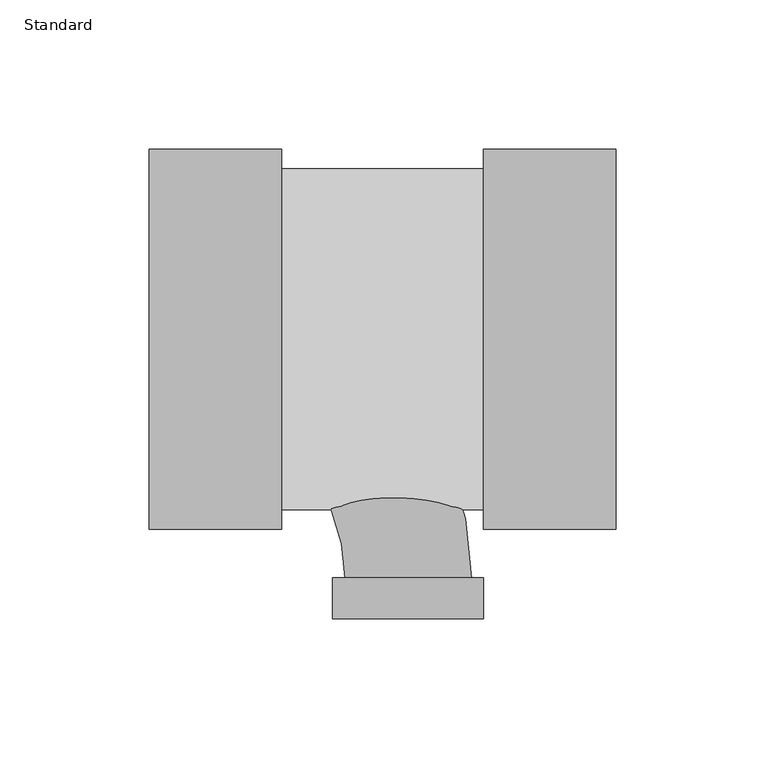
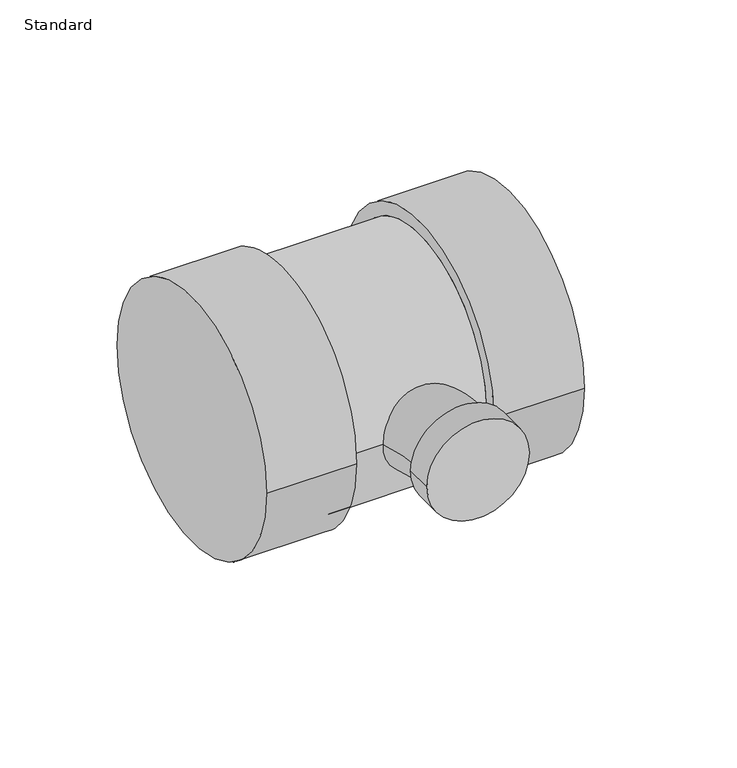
"""IFC4 building model written with IfcOpenShell, lengths in millimetres: pipe fitting geometry, EG-RCAN Té sanitaire de réduction - PVC - Nom. 40 - DWV : Standard."""

import ifcopenshell
import ifcopenshell.guid

model = None  # the IFC model being written
_history = None  # IfcOwnerHistory: only IFC2X3 demands one
_inside = {}  # id of a spatial element -> (the spatial element, [elements in it])
_under = {}  # id of a project, library or spatial element -> (it, [spatial elements below it])
_declared = {}  # id of a project -> (the project, [libraries it declares])
_typed = {}  # id of a type object -> (the type object, [elements of that type])
_made_of = {}  # id of a material, layer set ... -> (it, [elements and type objects made of it])


def new_model(schema):
    """Start an empty IFC model of exactly this schema.

    Asked for "IFC4X3", IfcOpenShell would pick the latest addendum, in which some entities
    have other attributes; the version numbers below select the first issue.
    IFC2X3 requires an IfcOwnerHistory on every rooted entity: one is made here for all.
    """
    global model, _history
    if schema == "IFC4X3":
        model = ifcopenshell.file(schema_version=(4, 3, 0, 0))
    else:
        model = ifcopenshell.file(schema=schema)
    _inside.clear()
    _under.clear()
    _declared.clear()
    _typed.clear()
    _made_of.clear()
    _history = None
    if model.schema == "IFC2X3":
        org = make("IfcOrganization", Name="unknown")
        user = make(
            "IfcPersonAndOrganization",
            ThePerson=make("IfcPerson", FamilyName="unknown"),
            TheOrganization=org,
        )
        app = make(
            "IfcApplication",
            ApplicationDeveloper=org,
            Version="unknown",
            ApplicationFullName="unknown",
            ApplicationIdentifier="unknown",
        )
        _history = make(
            "IfcOwnerHistory",
            OwningUser=user,
            OwningApplication=app,
            ChangeAction="ADDED",
            CreationDate=0,
        )
    return model


def make(cls, **values):
    """One entity of the class cls with the attributes given. An attribute that is None is left unset."""
    return model.create_entity(
        cls, **{name: value for name, value in values.items() if value is not None}
    )


def rooted(cls, **values):
    """An entity with a GlobalId (a new one), such as an element, a storey or a relation."""
    return make(cls, GlobalId=ifcopenshell.guid.new(), OwnerHistory=_history, **values)


def si_unit(unit_type, name, prefix=None):
    """IfcSIUnit, for example si_unit("LENGTHUNIT", "METRE", prefix="MILLI")."""
    return make("IfcSIUnit", UnitType=unit_type, Prefix=prefix, Name=name)


def assignment(units):
    """IfcUnitAssignment: the units of a project."""
    return None if units is None else make("IfcUnitAssignment", Units=units)


def point(xyz):
    """IfcCartesianPoint."""
    return None if xyz is None else make("IfcCartesianPoint", Coordinates=xyz)


def direction(xyz):
    """IfcDirection."""
    return None if xyz is None else make("IfcDirection", DirectionRatios=xyz)


def frame(location, z_axis=None, x_axis=None):
    """IfcAxis2Placement3D, a coordinate frame: its origin and axes. An axis left out is left unset."""
    return make(
        "IfcAxis2Placement3D",
        Location=point(location),
        Axis=direction(z_axis),
        RefDirection=direction(x_axis),
    )


def origin():
    """The frame at (0, 0, 0) with its axes left unset."""
    return frame((0.0, 0.0, 0.0))


def place(relative_to, where):
    """IfcLocalPlacement: puts the frame where relative to a parent placement (None: the world)."""
    return make(
        "IfcLocalPlacement", PlacementRelTo=relative_to, RelativePlacement=where
    )


def context(
    kind, dimensions, precision=None, world=None, true_north=None, identifier=None
):
    """IfcGeometricRepresentationContext, for example the 3D "Model" context."""
    return make(
        "IfcGeometricRepresentationContext",
        ContextIdentifier=identifier,
        ContextType=kind,
        CoordinateSpaceDimension=dimensions,
        Precision=precision,
        WorldCoordinateSystem=world,
        TrueNorth=true_north,
    )


def project(units=None, contexts=None):
    """IfcProject with its units and contexts."""
    return rooted(
        "IfcProject",
        Name="project",
        RepresentationContexts=contexts,
        UnitsInContext=assignment(units),
    )


def spatial(cls, under=None, at=None, **own):
    """A site, building, storey or space (cls), placed at a placement, below another one or the project."""
    s = rooted(cls, ObjectPlacement=at, **own)
    if under is not None:
        _under.setdefault(under.id(), (under, []))[1].append(s)
    return s


def circle_curve(where, radius):
    """IfcCircle in the frame where."""
    return make("IfcCircle", Position=where, Radius=radius)


def ellipse_curve(where, semi_axis1, semi_axis2):
    """IfcEllipse in the frame where."""
    return make(
        "IfcEllipse", Position=where, SemiAxis1=semi_axis1, SemiAxis2=semi_axis2
    )


def trimmed(basis, trim1, trim2, sense, master):
    """IfcTrimmedCurve: the piece of a basis curve between two trims."""
    return make(
        "IfcTrimmedCurve",
        BasisCurve=basis,
        Trim1=trim1,
        Trim2=trim2,
        SenseAgreement=sense,
        MasterRepresentation=master,
    )


def shape(context_of_items, identifier, shape_type, items):
    """IfcShapeRepresentation: the items that make up one representation, for example the "Body"."""
    return make(
        "IfcShapeRepresentation",
        ContextOfItems=context_of_items,
        RepresentationIdentifier=identifier,
        RepresentationType=shape_type,
        Items=items,
    )


def source(mapping_origin, context_of_items, identifier, shape_type, items):
    """IfcRepresentationMap: a shape defined once, which mapped items show again and again."""
    return make(
        "IfcRepresentationMap",
        MappingOrigin=mapping_origin,
        MappedRepresentation=shape(context_of_items, identifier, shape_type, items),
    )


def transform(
    local_origin,
    x_axis=None,
    y_axis=None,
    z_axis=None,
    scale=None,
    scale2=None,
    scale3=None,
    uniform=True,
):
    """IfcCartesianTransformationOperator3D, or its non-uniform kind. x_axis, y_axis, z_axis: its Axis1, 2, 3."""
    if uniform:
        return make(
            "IfcCartesianTransformationOperator3D",
            Axis1=direction(x_axis),
            Axis2=direction(y_axis),
            LocalOrigin=point(local_origin),
            Scale=scale,
            Axis3=direction(z_axis),
        )
    return make(
        "IfcCartesianTransformationOperator3DnonUniform",
        Axis1=direction(x_axis),
        Axis2=direction(y_axis),
        LocalOrigin=point(local_origin),
        Scale=scale,
        Axis3=direction(z_axis),
        Scale2=scale2,
        Scale3=scale3,
    )


def mapped(mapping_source, mapping_target):
    """IfcMappedItem: shows the shape of a source again, moved by a transform."""
    return make(
        "IfcMappedItem", MappingSource=mapping_source, MappingTarget=mapping_target
    )


def made_of(thing, what):
    """Note that an element or type object is made of a material, layer set ...; save() writes the relation."""
    if what is not None:
        _made_of.setdefault(what.id(), (what, []))[1].append(thing)
    return thing


def element(
    cls,
    number,
    at=None,
    inside=None,
    cuts=None,
    type_object=None,
    material=None,
    context=None,
    identifier="Body",
    shape_type=None,
    held_by="IfcProductDefinitionShape",
    body=None,
    shapes=None,
    **own,
):
    """One element of the class cls, such as IfcWall. Its Tag is "e" and its number.

    at: its placement. inside: the storey or other place that contains it. cuts: it is an
    opening in that element (IfcRelVoidsElement). A single representation is given by context,
    identifier, shape_type and body (its items); several are given by shapes. held_by: the class
    of the entity that holds the representations. save() writes the other relations.
    """
    e = rooted(cls, Tag="e%d" % number, ObjectPlacement=at, **own)
    if body is not None:
        shapes = [shape(context, identifier, shape_type, body)]
    if shapes is not None:
        e.Representation = make(held_by, Representations=shapes)
    if inside is not None:
        _inside.setdefault(inside.id(), (inside, []))[1].append(e)
    if cuts is not None:
        rooted(
            "IfcRelVoidsElement", RelatingBuildingElement=cuts, RelatedOpeningElement=e
        )
    if type_object is not None:
        _typed.setdefault(type_object.id(), (type_object, []))[1].append(e)
    return made_of(e, material)


def aggregate(whole, parts):
    """IfcRelAggregates: a whole, such as a stair, and the parts it consists of."""
    return rooted("IfcRelAggregates", RelatingObject=whole, RelatedObjects=parts)


def save(model, path):
    """Write the relations noted so far, then the file.

    IfcRelAggregates (storeys below a building ...), IfcRelContainedInSpatialStructure (elements
    in a storey), IfcRelDefinesByType, IfcRelAssociatesMaterial and IfcRelDeclares: one each for
    every whole, place, type object, material and project.
    """
    for whole, parts in _under.values():
        aggregate(whole, parts)
    for where, things in _inside.values():
        rooted(
            "IfcRelContainedInSpatialStructure",
            RelatedElements=things,
            RelatingStructure=where,
        )
    for kind, things in _typed.values():
        rooted("IfcRelDefinesByType", RelatedObjects=things, RelatingType=kind)
    for what, things in _made_of.values():
        rooted("IfcRelAssociatesMaterial", RelatedObjects=things, RelatingMaterial=what)
    for by, libraries in _declared.values():
        rooted("IfcRelDeclares", RelatingContext=by, RelatedDefinitions=libraries)
    model.write(path)


def plane_surface(at):
    """IfcPlane: the flat surface through the origin of the frame at, square to its z axis."""
    return make("IfcPlane", Position=at)


def cylinder_surface(at, radius):
    """IfcCylindricalSurface: all points at the distance radius from the z axis of the frame at."""
    return make("IfcCylindricalSurface", Position=at, Radius=radius)


def revolved_surface(curve, axis_point, axis_direction):
    """IfcSurfaceOfRevolution: the curve turned about the line through axis_point along axis_direction."""
    return make(
        "IfcSurfaceOfRevolution",
        SweptCurve=make("IfcArbitraryOpenProfileDef", ProfileType="CURVE", Curve=curve),
        AxisPosition=make("IfcAxis1Placement", Location=point(axis_point), Axis=direction(axis_direction)),
    )


def advanced_brep(points, edges, surfaces, faces):
    """IfcAdvancedBrep: a solid bounded by faces that lie on surfaces and meet in shared edges.

    An edge is (start, end): straight between two places in points (the first is 0);
    or (start, end, curve); or (start, end, curve, False) where it runs against its curve.
    A face is (place in surfaces, loops), or (place, loops, False) where it looks against
    its surface's normal. A loop lists edges by number (the first is 1), with a minus sign
    where the edge is run from its end to its start. The first loop is the outer one.
    """
    corners = [point(p) for p in points]
    vertices = [make("IfcVertexPoint", VertexGeometry=c) for c in corners]
    made = []
    for start, end, *more in edges:
        made.append(
            make(
                "IfcEdgeCurve",
                EdgeStart=vertices[start],
                EdgeEnd=vertices[end],
                EdgeGeometry=more[0] if more else make("IfcPolyline", Points=[corners[start], corners[end]]),
                SameSense=more[1] if len(more) > 1 else True,
            )
        )
    hull = []
    for where, loops, *sense in faces:
        bounds = []
        for j, loop in enumerate(loops):
            ring = [make("IfcOrientedEdge", EdgeElement=made[abs(k) - 1], Orientation=k > 0) for k in loop]
            bounds.append(
                make(
                    "IfcFaceOuterBound" if j == 0 else "IfcFaceBound",
                    Bound=make("IfcEdgeLoop", EdgeList=ring),
                    Orientation=True,
                )
            )
        hull.append(make("IfcAdvancedFace", Bounds=bounds, FaceSurface=surfaces[where], SameSense=sense[0] if sense else True))
    return make("IfcAdvancedBrep", Outer=make("IfcClosedShell", CfsFaces=hull))


def standard_7b1e645a(model_context):
    return source(origin(), model_context, "Body", "AdvancedBrep", [
        advanced_brep(
        [(25.2824652, -63.754, 0.0), (25.2824652, 63.754, 0.0), (25.2824652, -57.15, 0.0), (25.2824652, 57.15, 0.0), (69.7324652, -63.754, 0.0), (69.7324652, 63.754, 0.0), (-42.4599062, 57.15, 0.0), (-42.4599062, -57.15, 0.0), (-86.9099063, -63.754, 0.0), (-86.9099062, 63.754, 0.0), (-42.4599063, -63.754, 0.0), (-42.4599062, 63.754, 0.0)],
        [
            (0, 1, circle_curve(frame((25.2824652, 0.0, 0.0), z_axis=(-1.0, 0.0, 0.0), x_axis=(0.0, 1.0, 0.0)), 63.754)),
            (1, 0, circle_curve(frame((25.2824652, 0.0, 0.0), z_axis=(-1.0, 0.0, 0.0), x_axis=(0.0, 1.0, 0.0)), 63.754)),
            (2, 3, circle_curve(frame((25.2824652, 0.0, 0.0), z_axis=(1.0, 0.0, 0.0), x_axis=(0.0, 0.0, -1.0)), 57.15)),
            (3, 2, circle_curve(frame((25.2824652, 0.0, 0.0), z_axis=(1.0, 0.0, 0.0), x_axis=(0.0, 0.0, 1.0)), 57.15)),
            (4, 5, circle_curve(frame((69.7324652, 0.0, 0.0), z_axis=(1.0, 0.0, 0.0), x_axis=(0.0, 1.0, 0.0)), 63.754)),
            (5, 4, circle_curve(frame((69.7324652, 0.0, 0.0), z_axis=(1.0, 0.0, 0.0), x_axis=(0.0, 1.0, 0.0)), 63.754)),
            (0, 4),
            (5, 1),
            (6, 3),
            (2, 7),
            (7, 6, circle_curve(frame((-42.4599063, 0.0, 0.0), z_axis=(1.0, 0.0, 0.0), x_axis=(0.0, 0.0, -1.0)), 57.15)),
            (6, 7, circle_curve(frame((-42.4599062, 0.0, 0.0), z_axis=(1.0, 0.0, 0.0), x_axis=(0.0, 0.0, 1.0)), 57.15)),
            (8, 9, circle_curve(frame((-86.9099062, 0.0, 0.0), z_axis=(-1.0, 0.0, 0.0), x_axis=(0.0, 1.0, 0.0)), 63.754)),
            (9, 8, circle_curve(frame((-86.9099062, 0.0, 0.0), z_axis=(-1.0, 0.0, 0.0), x_axis=(0.0, 1.0, 0.0)), 63.754)),
            (10, 11, circle_curve(frame((-42.4599062, 0.0, 0.0), z_axis=(1.0, 0.0, 0.0), x_axis=(0.0, 1.0, 0.0)), 63.754)),
            (11, 10, circle_curve(frame((-42.4599062, 0.0, 0.0), z_axis=(1.0, 0.0, 0.0), x_axis=(0.0, 1.0, 0.0)), 63.754)),
            (8, 10),
            (11, 9),
        ],
        [
            plane_surface(frame((25.2824652, 0.0, 0.0), z_axis=(-1.0, 0.0, 0.0), x_axis=(0.0, 0.0, 1.0))),
            plane_surface(frame((69.7324652, 0.0, 0.0), z_axis=(1.0, 0.0, 0.0), x_axis=(0.0, 0.0, 1.0))),
            cylinder_surface(frame((25.2824652, 0.0, 0.0), z_axis=(-1.0, 0.0, 0.0), x_axis=(0.0, 1.0, 0.0)), 63.754),
            cylinder_surface(frame((-42.4599062, 0.0, 0.0), z_axis=(1.0, 0.0, 0.0), x_axis=(0.0, 0.0, -1.0)), 57.15),
            cylinder_surface(frame((-42.4599062, 0.0, 0.0), z_axis=(1.0, 0.0, 0.0), x_axis=(0.0, 0.0, 1.0)), 57.15),
            plane_surface(frame((-86.9099062, 0.0, 0.0), z_axis=(-1.0, 0.0, 0.0), x_axis=(0.0, 0.0, 1.0))),
            plane_surface(frame((-42.4599062, 0.0, 0.0), z_axis=(1.0, 0.0, 0.0), x_axis=(0.0, 0.0, 1.0))),
            cylinder_surface(frame((-86.9099062, 0.0, 0.0), z_axis=(-1.0, 0.0, 0.0), x_axis=(0.0, 1.0, 0.0)), 63.754),
        ],
        [
            (0, [[1, 2], [3, 4]]),
            (1, [[5, 6]]),
            (2, [[-1, 7, -6, 8]]),
            (2, [[-2, -8, -5, -7]]),
            (3, [[9, -3, 10, 11]]),
            (4, [[-9, 12, -10, -4]]),
            (5, [[13, 14]]),
            (6, [[15, 16], [-11, -12]]),
            (7, [[-13, 17, -16, 18]]),
            (7, [[-14, -18, -15, -17]]),
        ],
    ),
        advanced_brep(
        [(-25.2517526, -80.0325032, 0.0), (25.2824652, -80.0228063, 0.0), (21.2194184, -80.023586, 0.0), (-21.1887058, -80.0317236, 0.0), (-25.2491161, -93.7728155, 0.0), (25.2851018, -93.7631186, 0.0), (-80.0276562, -21.2040625, 0.0), (-80.0276562, 21.2040625, 0.0)],
        [
            (0, 1, circle_curve(frame((0.0153563, -80.0276548, 0.0), z_axis=(-0.00019188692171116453, 0.9999999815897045, 0.0), x_axis=(0.9999999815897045, 0.00019188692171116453, 0.0)), 25.2671094)),
            (1, 0, circle_curve(frame((0.0153563, -80.0276548, 0.0), z_axis=(-0.00019188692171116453, 0.9999999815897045, 0.0), x_axis=(0.9999999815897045, 0.00019188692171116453, 0.0)), 25.2671094)),
            (2, 3, circle_curve(frame((0.0153563, -80.0276548, 0.0), z_axis=(0.00019188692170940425, -0.9999999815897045, 0.0), x_axis=(0.9999999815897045, 0.00019188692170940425, 0.0)), 21.2040625)),
            (3, 2, circle_curve(frame((0.0153563, -80.0276548, 0.0), z_axis=(0.00019188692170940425, -0.9999999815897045, 0.0), x_axis=(0.9999999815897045, 0.00019188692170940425, 0.0)), 21.2040625)),
            (4, 5, circle_curve(frame((0.0179928, -93.767967, 0.0), z_axis=(0.00019188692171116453, -0.9999999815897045, 0.0), x_axis=(0.9999999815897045, 0.00019188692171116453, 0.0)), 25.2671094)),
            (5, 4, circle_curve(frame((0.0179928, -93.767967, 0.0), z_axis=(0.00019188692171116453, -0.9999999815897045, 0.0), x_axis=(0.9999999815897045, 0.00019188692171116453, 0.0)), 25.2671094)),
            (0, 4),
            (5, 1),
            (6, 7, circle_curve(frame((-80.0276562, 0.0, 0.0), z_axis=(-1.0, 0.0, 0.0), x_axis=(0.0, 1.0, 0.0)), 21.2040625)),
            (7, 6, circle_curve(frame((-80.0276562, 0.0, 0.0), z_axis=(-1.0, 0.0, 0.0), x_axis=(0.0, 1.0, 0.0)), 21.2040625)),
            (6, 3, circle_curve(frame((-80.0276562, -80.043014, 0.0), z_axis=(0.0, 0.0, -1.0), x_axis=(0.0, 1.0, 0.0)), 58.8389515)),
            (2, 7, circle_curve(frame((-80.0276562, -80.043014, 0.0), z_axis=(0.0, 0.0, 1.0), x_axis=(0.0, 1.0, 0.0)), 101.2470765)),
        ],
        [
            plane_surface(frame((0.0153563, -80.0276548, 0.0), z_axis=(-0.00019188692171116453, 0.9999999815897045, 0.0), x_axis=(0.0, 0.0, 1.0))),
            plane_surface(frame((0.0179928, -93.767967, 0.0), z_axis=(0.00019188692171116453, -0.9999999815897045, 0.0), x_axis=(0.0, 0.0, 1.0))),
            cylinder_surface(frame((0.0153563, -80.0276548, 0.0), z_axis=(-0.00019188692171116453, 0.9999999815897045, 0.0), x_axis=(0.9999999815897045, 0.00019188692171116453, 0.0)), 25.2671094),
            plane_surface(frame((-80.0276562, 0.0, 0.0), z_axis=(-1.0, 0.0, 0.0), x_axis=(0.0, 0.0, 1.0))),
            revolved_surface(trimmed(ellipse_curve(frame((-80.0276562, 0.0, 0.0), z_axis=(-1.0, 0.0, 0.0), x_axis=(0.0, 1.0, 0.0)), 21.2040625, 21.2040625), [point((-80.0276562, -21.2040625, 0.0))], [point((-80.0276562, 21.2040625, 0.0))], True, "CARTESIAN"), (-80.0276562, -80.043014, 0.0), (0.0, 0.0, -1.0)),
            revolved_surface(trimmed(ellipse_curve(frame((-80.0276562, 0.0, 0.0), z_axis=(-1.0, 0.0, 0.0), x_axis=(0.0, 1.0, 0.0)), 21.2040625, 21.2040625), [point((-80.0276562, 21.2040625, 0.0))], [point((-80.0276562, -21.2040625, 0.0))], True, "CARTESIAN"), (-80.0276562, -80.043014, 0.0), (0.0, 0.0, -1.0)),
        ],
        [
            (0, [[1, 2], [3, 4]]),
            (1, [[5, 6]]),
            (2, [[-1, 7, -6, 8]]),
            (2, [[-2, -8, -5, -7]]),
            (3, [[9, 10]]),
            (4, [[-9, 11, -3, 12]]),
            (5, [[-10, -12, -4, -11]]),
        ],
    ),
    ])


if __name__ == "__main__":
    model = new_model("IFC4")
    model_context = context("Model", 3, world=origin())
    ifc_project = project(units=[si_unit("LENGTHUNIT", "METRE", prefix="MILLI")], contexts=[model_context])
    site = spatial("IfcSite", under=ifc_project)
    building = spatial("IfcBuilding", under=site)
    placement = place(None, origin())
    standard_shape = standard_7b1e645a(model_context)
    element("IfcPipeFitting", 1, ObjectType="EG-RCAN Té sanitaire de réduction - PVC - Nom. 40 - DWV : Standard", at=placement, inside=building, context=model_context, shape_type="MappedRepresentation", body=[
        mapped(standard_shape, transform((0.0, 0.0, 0.0), x_axis=(1.0, 0.0, 0.0), y_axis=(0.0, 1.0, 0.0), z_axis=(0.0, 0.0, 1.0))),
    ])
    save(model, "model.ifc")
